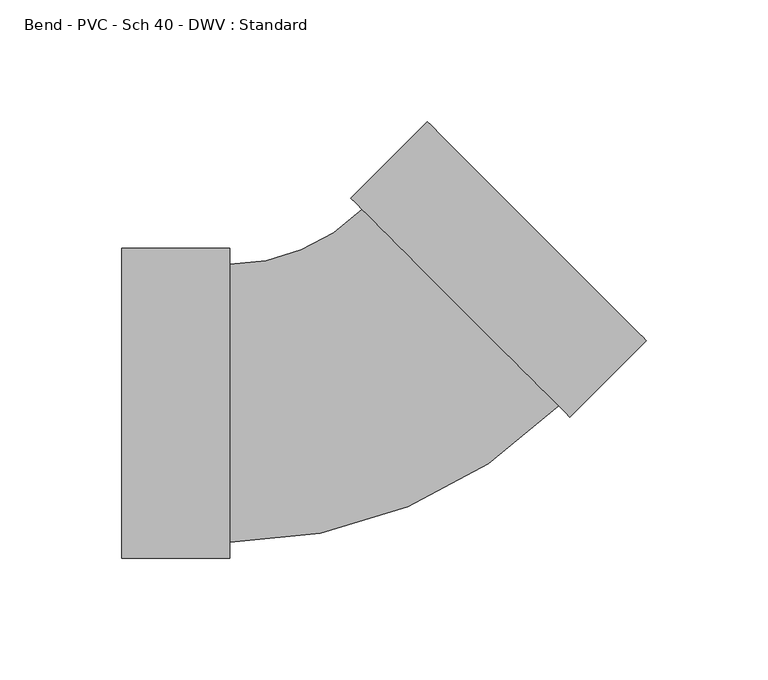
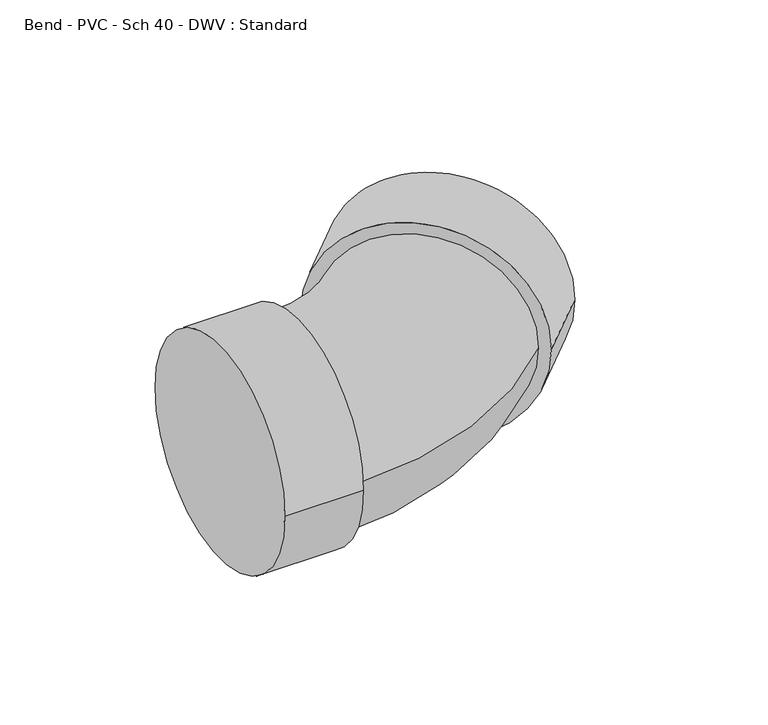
"""IFC4 building model written with IfcOpenShell, lengths in millimetres: pipe fitting geometry, Bend - PVC - Sch 40 - DWV : Standard."""

from ifc_helpers import new_model, si_unit, point, frame, origin, place, context, project, spatial, circle_curve, ellipse_curve, trimmed, source, transform, mapped, element, save
from ifc_brep_helpers import plane_surface, cylinder_surface, revolved_surface, advanced_brep


def bend_pvc_sch_40_dwv_standard_1949dfc0(model_context):
    return source(origin(), model_context, "Body", "AdvancedBrep", [
        advanced_brep(
        [(-100.0252, -63.754, 0.0), (-100.0252, 63.754, 0.0), (-55.5752, -63.754, 0.0), (-55.5752, 63.754, 0.0), (-55.5752, -57.15, 0.0), (-55.5752, 57.15, 0.0), (-1.1100003, 79.7088029, 0.0), (79.7087036, -1.1171032, 0.0), (84.3782288, -5.7870445, 0.0), (-5.7795254, 84.3787441, 0.0), (115.8105256, 25.6424515, 0.0), (25.6527714, 115.8082401, 0.0)],
        [
            (0, 1, circle_curve(frame((-100.0252, 0.0, 0.0), z_axis=(-1.0, 0.0, 0.0), x_axis=(0.0, 1.0, 0.0)), 63.754)),
            (1, 0, circle_curve(frame((-100.0252, 0.0, 0.0), z_axis=(-1.0, 0.0, 0.0), x_axis=(0.0, 1.0, 0.0)), 63.754)),
            (2, 3, circle_curve(frame((-55.5752, 0.0, 0.0), z_axis=(1.0, 0.0, 0.0), x_axis=(0.0, 1.0, 0.0)), 63.754)),
            (3, 2, circle_curve(frame((-55.5752, 0.0, 0.0), z_axis=(1.0, 0.0, 0.0), x_axis=(0.0, 1.0, 0.0)), 63.754)),
            (4, 5, circle_curve(frame((-55.5752, 0.0, 0.0), z_axis=(-1.0, 0.0, 0.0), x_axis=(0.0, 1.0, 0.0)), 57.15)),
            (5, 4, circle_curve(frame((-55.5752, 0.0, 0.0), z_axis=(-1.0, 0.0, 0.0), x_axis=(0.0, 1.0, 0.0)), 57.15)),
            (0, 2),
            (3, 1),
            (6, 5, circle_curve(frame((-55.5752, 134.1788562, 0.0), z_axis=(0.0, 0.0, -1.0), x_axis=(0.0, -1.0, 0.0)), 77.0288562)),
            (4, 7, circle_curve(frame((-55.5752, 134.1788562, 0.0), z_axis=(0.0, 0.0, 1.0), x_axis=(0.0, -1.0, 0.0)), 191.3288562)),
            (7, 6, circle_curve(frame((39.2993517, 39.2958498, 0.0), z_axis=(-0.7071382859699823, -0.7070752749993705, 0.0), x_axis=(-0.7070752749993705, 0.7071382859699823, 0.0)), 57.15)),
            (6, 7, circle_curve(frame((39.2993517, 39.2958498, 0.0), z_axis=(-0.7071382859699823, -0.7070752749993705, 0.0), x_axis=(-0.7070752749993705, 0.7071382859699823, 0.0)), 57.15)),
            (8, 9, circle_curve(frame((39.2993517, 39.2958498, 0.0), z_axis=(-0.7071382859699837, -0.7070752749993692, 0.0), x_axis=(-0.7070752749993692, 0.7071382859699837, 0.0)), 63.754)),
            (9, 8, circle_curve(frame((39.2993517, 39.2958498, 0.0), z_axis=(-0.7071382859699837, -0.7070752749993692, 0.0), x_axis=(-0.7070752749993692, 0.7071382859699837, 0.0)), 63.754)),
            (10, 11, circle_curve(frame((70.7316485, 70.7253458, 0.0), z_axis=(0.7071382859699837, 0.7070752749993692, 0.0), x_axis=(-0.7070752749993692, 0.7071382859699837, 0.0)), 63.754)),
            (11, 10, circle_curve(frame((70.7316485, 70.7253458, 0.0), z_axis=(0.7071382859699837, 0.7070752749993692, 0.0), x_axis=(-0.7070752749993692, 0.7071382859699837, 0.0)), 63.754)),
            (8, 10),
            (11, 9),
        ],
        [
            plane_surface(frame((-100.0252, 0.0, 0.0), z_axis=(-1.0, 0.0, 0.0), x_axis=(0.0, 0.0, 1.0))),
            plane_surface(frame((-55.5752, 0.0, 0.0), z_axis=(1.0, 0.0, 0.0), x_axis=(0.0, 0.0, 1.0))),
            cylinder_surface(frame((-100.0252, 0.0, 0.0), z_axis=(-1.0, 0.0, 0.0), x_axis=(0.0, 1.0, 0.0)), 63.754),
            revolved_surface(trimmed(ellipse_curve(frame((-55.5752, 0.0, 0.0), z_axis=(-1.0, 0.0, 0.0), x_axis=(0.0, 1.0, 0.0)), 57.15, 57.15), [point((-55.5752, -57.15, 0.0))], [point((-55.5752, 57.15, 0.0))], True, "CARTESIAN"), (-55.5752, 134.1788562, 0.0), (0.0, 0.0, 1.0)),
            revolved_surface(trimmed(ellipse_curve(frame((-55.5752, 0.0, 0.0), z_axis=(-1.0, 0.0, 0.0), x_axis=(0.0, 1.0, 0.0)), 57.15, 57.15), [point((-55.5752, 57.15, 0.0))], [point((-55.5752, -57.15, 0.0))], True, "CARTESIAN"), (-55.5752, 134.1788562, 0.0), (0.0, 0.0, 1.0)),
            plane_surface(frame((39.2993517, 39.2958498, 0.0), z_axis=(-0.7071382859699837, -0.7070752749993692, 0.0), x_axis=(0.0, 0.0, 1.0))),
            plane_surface(frame((70.7316485, 70.7253458, 0.0), z_axis=(0.7071382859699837, 0.7070752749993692, 0.0), x_axis=(0.0, 0.0, 1.0))),
            cylinder_surface(frame((39.2993517, 39.2958498, 0.0), z_axis=(-0.7071382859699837, -0.7070752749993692, 0.0), x_axis=(-0.7070752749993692, 0.7071382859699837, 0.0)), 63.754),
        ],
        [
            (0, [[1, 2]]),
            (1, [[3, 4], [5, 6]]),
            (2, [[-1, 7, -4, 8]]),
            (2, [[-2, -8, -3, -7]]),
            (3, [[9, -5, 10, 11]]),
            (4, [[-9, 12, -10, -6]]),
            (5, [[13, 14], [-11, -12]]),
            (6, [[15, 16]]),
            (7, [[-13, 17, -16, 18]]),
            (7, [[-14, -18, -15, -17]]),
        ],
    ),
    ])


if __name__ == "__main__":
    model = new_model("IFC4")
    model_context = context("Model", 3, world=origin())
    ifc_project = project(units=[si_unit("LENGTHUNIT", "METRE", prefix="MILLI")], contexts=[model_context])
    site = spatial("IfcSite", under=ifc_project)
    building = spatial("IfcBuilding", under=site)
    placement = place(None, origin())
    bend_pvc_sch_40_dwv_standard_shape = bend_pvc_sch_40_dwv_standard_1949dfc0(model_context)
    element("IfcPipeFitting", 1, ObjectType="Bend - PVC - Sch 40 - DWV : Standard", at=placement, inside=building, context=model_context, shape_type="MappedRepresentation", body=[
        mapped(bend_pvc_sch_40_dwv_standard_shape, transform((0.0, 0.0, 0.0), x_axis=(1.0, 0.0, 0.0), y_axis=(0.0, 1.0, 0.0), z_axis=(0.0, 0.0, 1.0))),
    ])
    save(model, "model.ifc")
